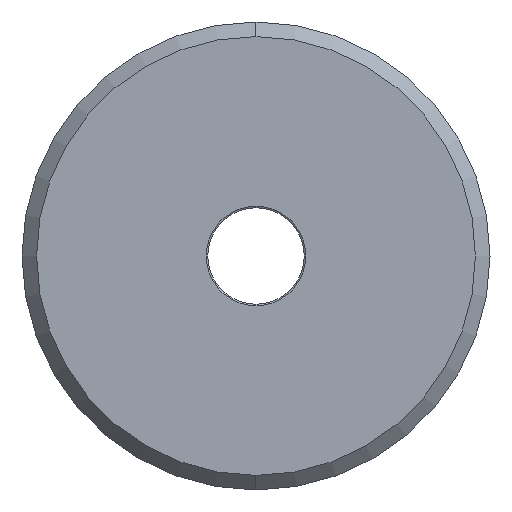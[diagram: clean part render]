
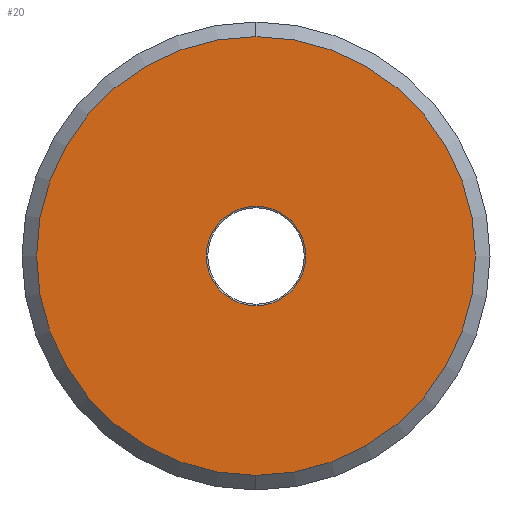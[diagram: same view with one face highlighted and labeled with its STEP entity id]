
A CAD part, left-side view. The second image highlights one B-rep face of the part: STEP entity #20.
In plain terms, the highlighted planar face has unit normal (-1, 0, 0).
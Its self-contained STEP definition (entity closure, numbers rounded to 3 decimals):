
#2 = CIRCLE ( 'NONE', #292, 15. ) ;
#20 = ADVANCED_FACE ( 'NONE', ( #480, #177 ), #96, .T. ) ;
#21 = CIRCLE ( 'NONE', #516, 15. ) ;
#39 = ORIENTED_EDGE ( 'NONE', *, *, #119, .T. ) ;
#58 = ORIENTED_EDGE ( 'NONE', *, *, #205, .F. ) ;
#62 = CARTESIAN_POINT ( 'NONE',  ( 0., 0., 15. ) ) ;
#76 = ORIENTED_EDGE ( 'NONE', *, *, #107, .F. ) ;
#96 = PLANE ( 'NONE',  #356 ) ;
#103 = CARTESIAN_POINT ( 'NONE',  ( 0., 0., 0. ) ) ;
#107 = EDGE_CURVE ( 'NONE', #239, #408, #258, .T. ) ;
#119 = EDGE_CURVE ( 'NONE', #324, #463, #21, .T. ) ;
#123 = ORIENTED_EDGE ( 'NONE', *, *, #214, .T. ) ;
#124 = CARTESIAN_POINT ( 'NONE',  ( 0., 0., 3.4 ) ) ;
#126 = CARTESIAN_POINT ( 'NONE',  ( 0., 0., 0. ) ) ;
#127 = EDGE_LOOP ( 'NONE', ( #76, #58 ) ) ;
#129 = CIRCLE ( 'NONE', #505, 3.4 ) ;
#131 = DIRECTION ( 'NONE',  ( -1., 0., 0. ) ) ;
#169 = EDGE_LOOP ( 'NONE', ( #123, #39 ) ) ;
#177 = FACE_BOUND ( 'NONE', #127, .T. ) ;
#198 = DIRECTION ( 'NONE',  ( 0., 0., 1. ) ) ;
#205 = EDGE_CURVE ( 'NONE', #408, #239, #129, .T. ) ;
#214 = EDGE_CURVE ( 'NONE', #463, #324, #2, .T. ) ;
#216 = CARTESIAN_POINT ( 'NONE',  ( 0., 0., 0. ) ) ;
#239 = VERTEX_POINT ( 'NONE', #124 ) ;
#247 = DIRECTION ( 'NONE',  ( -1., 0., 0. ) ) ;
#258 = CIRCLE ( 'NONE', #439, 3.4 ) ;
#263 = DIRECTION ( 'NONE',  ( -1., 0., 0. ) ) ;
#292 = AXIS2_PLACEMENT_3D ( 'NONE', #126, #131, #376 ) ;
#298 = DIRECTION ( 'NONE',  ( 0., 0., 1. ) ) ;
#324 = VERTEX_POINT ( 'NONE', #62 ) ;
#356 = AXIS2_PLACEMENT_3D ( 'NONE', #216, #247, #471 ) ;
#368 = CARTESIAN_POINT ( 'NONE',  ( 0., 0., -15. ) ) ;
#376 = DIRECTION ( 'NONE',  ( 0., 0., 1. ) ) ;
#385 = CARTESIAN_POINT ( 'NONE',  ( 0., 0., 0. ) ) ;
#394 = DIRECTION ( 'NONE',  ( -1., 0., 0. ) ) ;
#408 = VERTEX_POINT ( 'NONE', #514 ) ;
#436 = DIRECTION ( 'NONE',  ( 0., 0., 1. ) ) ;
#439 = AXIS2_PLACEMENT_3D ( 'NONE', #385, #394, #298 ) ;
#463 = VERTEX_POINT ( 'NONE', #368 ) ;
#466 = DIRECTION ( 'NONE',  ( -1., 0., 0. ) ) ;
#471 = DIRECTION ( 'NONE',  ( 0., 0., 1. ) ) ;
#480 = FACE_OUTER_BOUND ( 'NONE', #169, .T. ) ;
#505 = AXIS2_PLACEMENT_3D ( 'NONE', #506, #466, #198 ) ;
#506 = CARTESIAN_POINT ( 'NONE',  ( 0., 0., 0. ) ) ;
#514 = CARTESIAN_POINT ( 'NONE',  ( 0., 0., -3.4 ) ) ;
#516 = AXIS2_PLACEMENT_3D ( 'NONE', #103, #263, #436 ) ;
